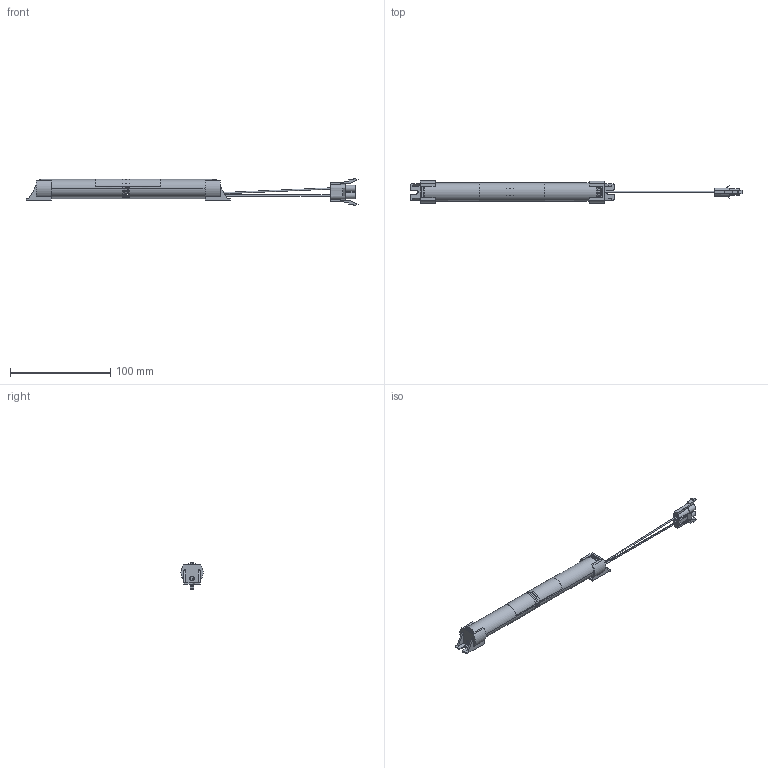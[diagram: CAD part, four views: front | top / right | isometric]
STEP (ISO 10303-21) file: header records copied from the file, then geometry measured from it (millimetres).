
FILE_DESCRIPTION((''),'2;1');
FILE_NAME('15013952Z_DMEC_28002316_2XRND_D','2021-07-20T14:55:12',('Juergen.Hrach'),(''),'CREO PARAMETRIC BY PTC INC, 2019164','CREO PARAMETRIC BY PTC INC, 2019164','');
FILE_SCHEMA(('CONFIG_CONTROL_DESIGN'));
Length unit declared in the file: millimetre
Products named in the file (1): 15013952Z_DMEC_28002316_2XRND_D
Bounding box: 330.5 x 21.96 x 27 mm (x, y, z)
Volume: 51282.4 mm3; surface area: 21354.1 mm2
Topology: 5 solids, 5 shells, 244 faces, 651 edges, 418 vertices
Faces by surface type: plane 127, cylinder 89, torus 28
Entity records: 7819 total; most frequent: CARTESIAN_POINT 1495, DIRECTION 1367, ORIENTED_EDGE 1302, EDGE_CURVE 651, AXIS2_PLACEMENT_3D 496, VERTEX_POINT 418, VECTOR 375, LINE 375
